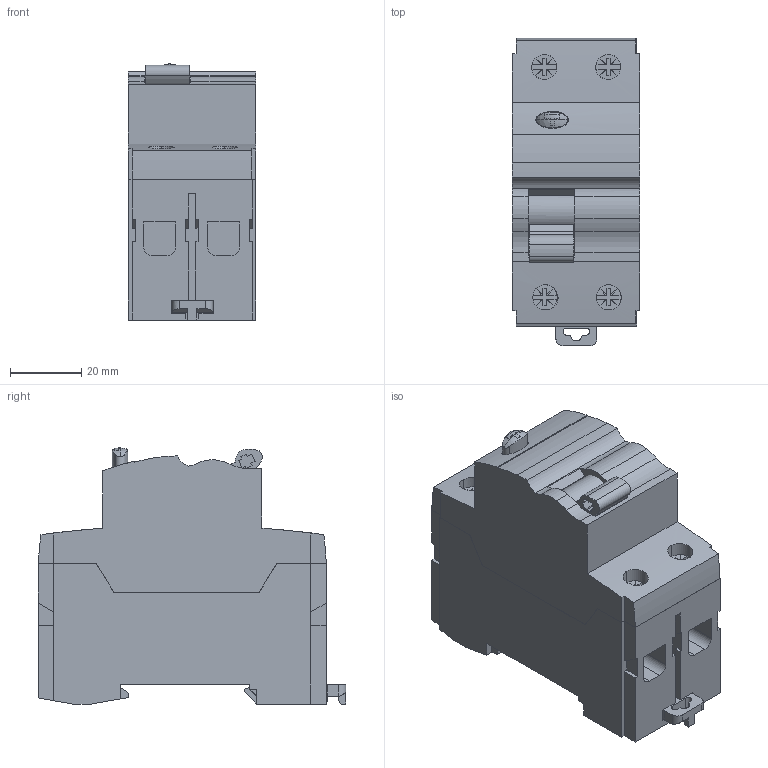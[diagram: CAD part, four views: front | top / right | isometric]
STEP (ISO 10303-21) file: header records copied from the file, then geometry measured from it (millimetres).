
FILE_DESCRIPTION((''),'2;1');
FILE_NAME('SB103727_3D-SIMPLIFIED_ASM','2012-01-10T',('quickadmin'),(''),'PRO/ENGINEER BY PARAMETRIC TECHNOLOGY CORPORATION, 2006170','PRO/ENGINEER BY PARAMETRIC TECHNOLOGY CORPORATION, 2006170','');
FILE_SCHEMA(('CONFIG_CONTROL_DESIGN'));
Length unit declared in the file: millimetre
Products named in the file (7): COQUE_ARRIERE; COQUE_AVANT; MANETTE; VIS_7D1; CLIP_02; INTERRUPTEUR; SB103727_3D-SIMPLIFIED_ASM
Assembly tree (9 placements, depth 2):
  SB103727_3D-SIMPLIFIED_ASM
    COQUE_ARRIERE
    COQUE_AVANT
    MANETTE
    VIS_7D1  x4
    CLIP_02
    INTERRUPTEUR
Bounding box: 35.8 x 86.5 x 72.06 mm (x, y, z)
Volume: 154277.4 mm3; surface area: 34562.7 mm2
Topology: 9 solids, 9 shells, 441 faces, 1249 edges, 830 vertices
Faces by surface type: plane 368, cylinder 67, sphere 4, extrusion 2
Entity records: 11937 total; most frequent: CARTESIAN_POINT 2340, ORIENTED_EDGE 2026, DIRECTION 1886, EDGE_CURVE 1013, VECTOR 844, LINE 842, VERTEX_POINT 674, AXIS2_PLACEMENT_3D 521
